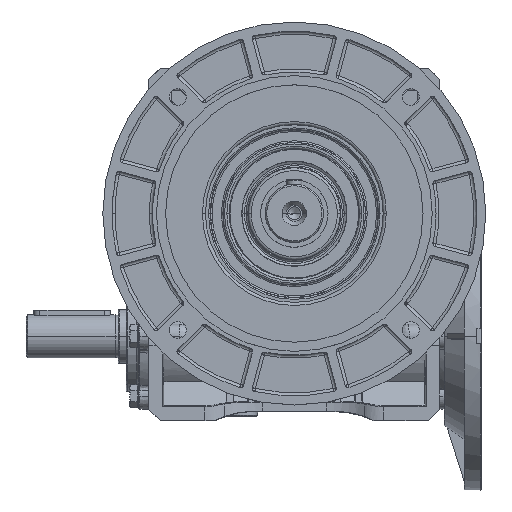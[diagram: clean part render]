
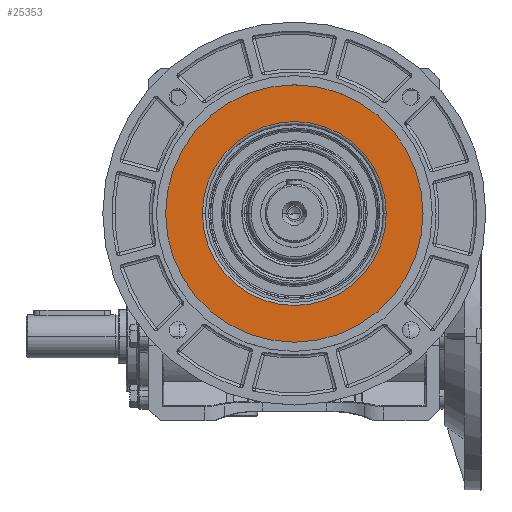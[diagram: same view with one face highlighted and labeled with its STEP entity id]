
A CAD part, top view. The second image highlights one B-rep face of the part: STEP entity #25353.
In plain terms, the highlighted planar face has unit normal (0, 0, 1).
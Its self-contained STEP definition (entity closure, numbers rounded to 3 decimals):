
#2746 = ORIENTED_EDGE ( 'NONE', *, *, #120419, .T. ) ;
#3399 = CARTESIAN_POINT ( 'NONE',  ( 0., 0., 119.5 ) ) ;
#5498 = CARTESIAN_POINT ( 'NONE',  ( 0., 0., 119.5 ) ) ;
#6013 = CARTESIAN_POINT ( 'NONE',  ( -60., 0., 119.5 ) ) ;
#10533 = EDGE_CURVE ( 'NONE', #38704, #62504, #73999, .T. ) ;
#13331 = CARTESIAN_POINT ( 'NONE',  ( 0., 84., 119.5 ) ) ;
#13980 = DIRECTION ( 'NONE',  ( 0., 0., -1. ) ) ;
#16882 = CARTESIAN_POINT ( 'NONE',  ( 84., 0., 119.5 ) ) ;
#22104 = DIRECTION ( 'NONE',  ( 0., 0., -1. ) ) ;
#24732 = AXIS2_PLACEMENT_3D ( 'NONE', #5498, #45583, #95624 ) ;
#25353 = ADVANCED_FACE ( 'NONE', ( #104109, #33034 ), #73199, .F. ) ;
#26586 = CIRCLE ( 'NONE', #70744, 60. ) ;
#29306 = AXIS2_PLACEMENT_3D ( 'NONE', #35259, #122769, #74119 ) ;
#33034 = FACE_OUTER_BOUND ( 'NONE', #128659, .T. ) ;
#35259 = CARTESIAN_POINT ( 'NONE',  ( 0., 0., 119.5 ) ) ;
#38704 = VERTEX_POINT ( 'NONE', #16882 ) ;
#39211 = ORIENTED_EDGE ( 'NONE', *, *, #129210, .T. ) ;
#40970 = EDGE_CURVE ( 'NONE', #62504, #38704, #69273, .T. ) ;
#44897 = VERTEX_POINT ( 'NONE', #6013 ) ;
#45583 = DIRECTION ( 'NONE',  ( 0., 0., -1. ) ) ;
#58427 = CIRCLE ( 'NONE', #24732, 60. ) ;
#62504 = VERTEX_POINT ( 'NONE', #104856 ) ;
#69273 = CIRCLE ( 'NONE', #29306, 84. ) ;
#69512 = VERTEX_POINT ( 'NONE', #103449 ) ;
#70744 = AXIS2_PLACEMENT_3D ( 'NONE', #92544, #22104, #122717 ) ;
#73199 = PLANE ( 'NONE',  #118926 ) ;
#73999 = CIRCLE ( 'NONE', #105571, 84. ) ;
#74119 = DIRECTION ( 'NONE',  ( 1., 0., 0. ) ) ;
#92544 = CARTESIAN_POINT ( 'NONE',  ( 0., 0., 119.5 ) ) ;
#95624 = DIRECTION ( 'NONE',  ( -1., 0., 0. ) ) ;
#99693 = EDGE_LOOP ( 'NONE', ( #2746, #39211 ) ) ;
#103375 = DIRECTION ( 'NONE',  ( 1., 0., 0. ) ) ;
#103449 = CARTESIAN_POINT ( 'NONE',  ( 60., 0., 119.5 ) ) ;
#104109 = FACE_BOUND ( 'NONE', #99693, .T. ) ;
#104856 = CARTESIAN_POINT ( 'NONE',  ( -84., 0., 119.5 ) ) ;
#105403 = DIRECTION ( 'NONE',  ( -1., 0., 0. ) ) ;
#105571 = AXIS2_PLACEMENT_3D ( 'NONE', #3399, #110654, #103375 ) ;
#108215 = ORIENTED_EDGE ( 'NONE', *, *, #40970, .T. ) ;
#110654 = DIRECTION ( 'NONE',  ( 0., 0., 1. ) ) ;
#117265 = ORIENTED_EDGE ( 'NONE', *, *, #10533, .T. ) ;
#118926 = AXIS2_PLACEMENT_3D ( 'NONE', #13331, #13980, #105403 ) ;
#120419 = EDGE_CURVE ( 'NONE', #44897, #69512, #58427, .T. ) ;
#122717 = DIRECTION ( 'NONE',  ( -1., 0., 0. ) ) ;
#122769 = DIRECTION ( 'NONE',  ( 0., 0., 1. ) ) ;
#128659 = EDGE_LOOP ( 'NONE', ( #117265, #108215 ) ) ;
#129210 = EDGE_CURVE ( 'NONE', #69512, #44897, #26586, .T. ) ;
